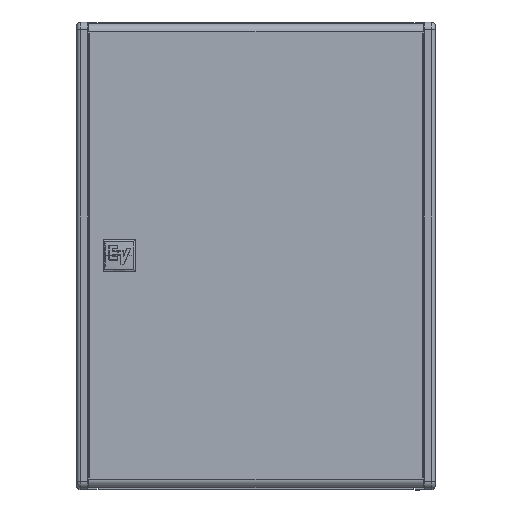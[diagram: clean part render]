
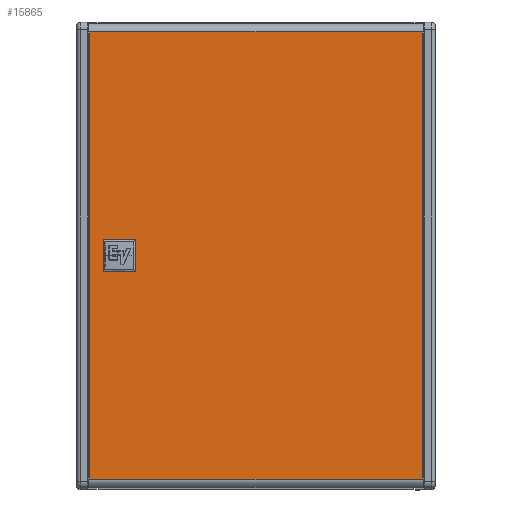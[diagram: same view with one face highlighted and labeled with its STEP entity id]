
A CAD part, top view. The second image highlights one B-rep face of the part: STEP entity #15865.
In plain terms, the highlighted planar face has unit normal (0, 0, 1).
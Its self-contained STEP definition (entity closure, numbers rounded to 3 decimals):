
#306 = VECTOR ( 'NONE', #16933, 1000. ) ;
#352 = DIRECTION ( 'NONE',  ( 0., -1., 0. ) ) ;
#484 = LINE ( 'NONE', #16948, #16006 ) ;
#552 = CARTESIAN_POINT ( 'NONE',  ( -277.812, 368.681, 1.194 ) ) ;
#592 = VERTEX_POINT ( 'NONE', #18513 ) ;
#1070 = LINE ( 'NONE', #15745, #13054 ) ;
#1124 = EDGE_LOOP ( 'NONE', ( #23083, #8799, #2319, #23313, #18318, #19565, #11420, #17429, #16364, #15132, #7060, #9085 ) ) ;
#1149 = CARTESIAN_POINT ( 'NONE',  ( -277.813, 370.967, 1.194 ) ) ;
#1348 = LINE ( 'NONE', #5389, #7014 ) ;
#2319 = ORIENTED_EDGE ( 'NONE', *, *, #7921, .T. ) ;
#2563 = VECTOR ( 'NONE', #20913, 1000. ) ;
#3564 = VERTEX_POINT ( 'NONE', #20147 ) ;
#3752 = EDGE_CURVE ( 'NONE', #592, #15206, #1070, .T. ) ;
#3789 = CARTESIAN_POINT ( 'NONE',  ( 277.812, 370.967, 1.194 ) ) ;
#3896 = DIRECTION ( 'NONE',  ( 1., 0., 0. ) ) ;
#4013 = PLANE ( 'NONE',  #14451 ) ;
#4753 = VERTEX_POINT ( 'NONE', #13095 ) ;
#5326 = VERTEX_POINT ( 'NONE', #9945 ) ;
#5389 = CARTESIAN_POINT ( 'NONE',  ( 276.035, -368.681, 1.194 ) ) ;
#5482 = DIRECTION ( 'NONE',  ( 0., -1., 0. ) ) ;
#5695 = CARTESIAN_POINT ( 'NONE',  ( -277.812, -384.861, 1.194 ) ) ;
#5718 = LINE ( 'NONE', #9302, #22650 ) ;
#5987 = CARTESIAN_POINT ( 'NONE',  ( 276.035, -368.681, 1.194 ) ) ;
#6012 = CARTESIAN_POINT ( 'NONE',  ( -277.813, 368.681, 1.194 ) ) ;
#6548 = EDGE_CURVE ( 'NONE', #19894, #4753, #1348, .T. ) ;
#7014 = VECTOR ( 'NONE', #16018, 1000. ) ;
#7060 = ORIENTED_EDGE ( 'NONE', *, *, #19078, .T. ) ;
#7239 = DIRECTION ( 'NONE',  ( -1., 0., 0. ) ) ;
#7245 = EDGE_CURVE ( 'NONE', #11419, #592, #22248, .T. ) ;
#7474 = VECTOR ( 'NONE', #7239, 1000. ) ;
#7602 = VERTEX_POINT ( 'NONE', #11123 ) ;
#7921 = EDGE_CURVE ( 'NONE', #17941, #3564, #5718, .T. ) ;
#8343 = DIRECTION ( 'NONE',  ( 1., 0., 0. ) ) ;
#8467 = EDGE_CURVE ( 'NONE', #15206, #5326, #10384, .T. ) ;
#8799 = ORIENTED_EDGE ( 'NONE', *, *, #22725, .T. ) ;
#9085 = ORIENTED_EDGE ( 'NONE', *, *, #12553, .T. ) ;
#9230 = CARTESIAN_POINT ( 'NONE',  ( 277.812, 370.967, 1.194 ) ) ;
#9302 = CARTESIAN_POINT ( 'NONE',  ( -276.035, 368.681, 1.194 ) ) ;
#9536 = EDGE_CURVE ( 'NONE', #9854, #19618, #11085, .T. ) ;
#9552 = LINE ( 'NONE', #18608, #11262 ) ;
#9671 = DIRECTION ( 'NONE',  ( 1., 0., 0. ) ) ;
#9796 = VECTOR ( 'NONE', #17770, 1000. ) ;
#9854 = VERTEX_POINT ( 'NONE', #1149 ) ;
#9945 = CARTESIAN_POINT ( 'NONE',  ( 277.813, -368.681, 1.194 ) ) ;
#10384 = LINE ( 'NONE', #22755, #19440 ) ;
#11085 = LINE ( 'NONE', #16576, #19858 ) ;
#11123 = CARTESIAN_POINT ( 'NONE',  ( 277.812, 368.681, 1.194 ) ) ;
#11207 = LINE ( 'NONE', #3789, #306 ) ;
#11262 = VECTOR ( 'NONE', #21821, 1000. ) ;
#11419 = VERTEX_POINT ( 'NONE', #17157 ) ;
#11420 = ORIENTED_EDGE ( 'NONE', *, *, #8467, .T. ) ;
#11429 = DIRECTION ( 'NONE',  ( 0., 0., 1. ) ) ;
#11584 = CARTESIAN_POINT ( 'NONE',  ( -276.035, 368.681, 1.194 ) ) ;
#12553 = EDGE_CURVE ( 'NONE', #19502, #9854, #11207, .T. ) ;
#12746 = VECTOR ( 'NONE', #17024, 1000. ) ;
#13054 = VECTOR ( 'NONE', #8343, 1000. ) ;
#13095 = CARTESIAN_POINT ( 'NONE',  ( 276.035, 368.681, 1.194 ) ) ;
#13098 = FACE_OUTER_BOUND ( 'NONE', #1124, .T. ) ;
#13672 = LINE ( 'NONE', #552, #2563 ) ;
#13843 = DIRECTION ( 'NONE',  ( 0., 1., 0. ) ) ;
#14451 = AXIS2_PLACEMENT_3D ( 'NONE', #5695, #11429, #3896 ) ;
#15132 = ORIENTED_EDGE ( 'NONE', *, *, #17063, .T. ) ;
#15206 = VERTEX_POINT ( 'NONE', #20552 ) ;
#15745 = CARTESIAN_POINT ( 'NONE',  ( -277.812, -370.967, 1.194 ) ) ;
#15865 = ADVANCED_FACE ( 'NONE', ( #13098 ), #4013, .T. ) ;
#16006 = VECTOR ( 'NONE', #9671, 1000. ) ;
#16018 = DIRECTION ( 'NONE',  ( 0., 1., 0. ) ) ;
#16304 = LINE ( 'NONE', #23527, #7474 ) ;
#16364 = ORIENTED_EDGE ( 'NONE', *, *, #6548, .T. ) ;
#16576 = CARTESIAN_POINT ( 'NONE',  ( -277.813, 384.861, 1.194 ) ) ;
#16933 = DIRECTION ( 'NONE',  ( -1., 0., 0. ) ) ;
#16948 = CARTESIAN_POINT ( 'NONE',  ( -277.813, 368.681, 1.194 ) ) ;
#17024 = DIRECTION ( 'NONE',  ( 0., -1., 0. ) ) ;
#17063 = EDGE_CURVE ( 'NONE', #4753, #7602, #484, .T. ) ;
#17157 = CARTESIAN_POINT ( 'NONE',  ( -277.812, -368.681, 1.194 ) ) ;
#17429 = ORIENTED_EDGE ( 'NONE', *, *, #22217, .T. ) ;
#17770 = DIRECTION ( 'NONE',  ( -1., 0., 0. ) ) ;
#17941 = VERTEX_POINT ( 'NONE', #11584 ) ;
#18318 = ORIENTED_EDGE ( 'NONE', *, *, #7245, .T. ) ;
#18513 = CARTESIAN_POINT ( 'NONE',  ( -277.812, -370.967, 1.194 ) ) ;
#18608 = CARTESIAN_POINT ( 'NONE',  ( 277.812, 384.861, 1.194 ) ) ;
#19078 = EDGE_CURVE ( 'NONE', #7602, #19502, #9552, .T. ) ;
#19440 = VECTOR ( 'NONE', #13843, 1000. ) ;
#19502 = VERTEX_POINT ( 'NONE', #9230 ) ;
#19550 = CARTESIAN_POINT ( 'NONE',  ( -277.812, -368.681, 1.194 ) ) ;
#19565 = ORIENTED_EDGE ( 'NONE', *, *, #3752, .T. ) ;
#19618 = VERTEX_POINT ( 'NONE', #6012 ) ;
#19773 = LINE ( 'NONE', #19550, #9796 ) ;
#19858 = VECTOR ( 'NONE', #5482, 1000. ) ;
#19894 = VERTEX_POINT ( 'NONE', #5987 ) ;
#20147 = CARTESIAN_POINT ( 'NONE',  ( -276.035, -368.681, 1.194 ) ) ;
#20552 = CARTESIAN_POINT ( 'NONE',  ( 277.813, -370.967, 1.194 ) ) ;
#20913 = DIRECTION ( 'NONE',  ( 1., 0., 0. ) ) ;
#21676 = EDGE_CURVE ( 'NONE', #3564, #11419, #16304, .T. ) ;
#21821 = DIRECTION ( 'NONE',  ( 0., 1., 0. ) ) ;
#22217 = EDGE_CURVE ( 'NONE', #5326, #19894, #19773, .T. ) ;
#22248 = LINE ( 'NONE', #22483, #12746 ) ;
#22483 = CARTESIAN_POINT ( 'NONE',  ( -277.813, 384.861, 1.194 ) ) ;
#22650 = VECTOR ( 'NONE', #352, 1000. ) ;
#22725 = EDGE_CURVE ( 'NONE', #19618, #17941, #13672, .T. ) ;
#22755 = CARTESIAN_POINT ( 'NONE',  ( 277.812, 384.861, 1.194 ) ) ;
#23083 = ORIENTED_EDGE ( 'NONE', *, *, #9536, .T. ) ;
#23313 = ORIENTED_EDGE ( 'NONE', *, *, #21676, .T. ) ;
#23527 = CARTESIAN_POINT ( 'NONE',  ( -277.813, -368.681, 1.194 ) ) ;
